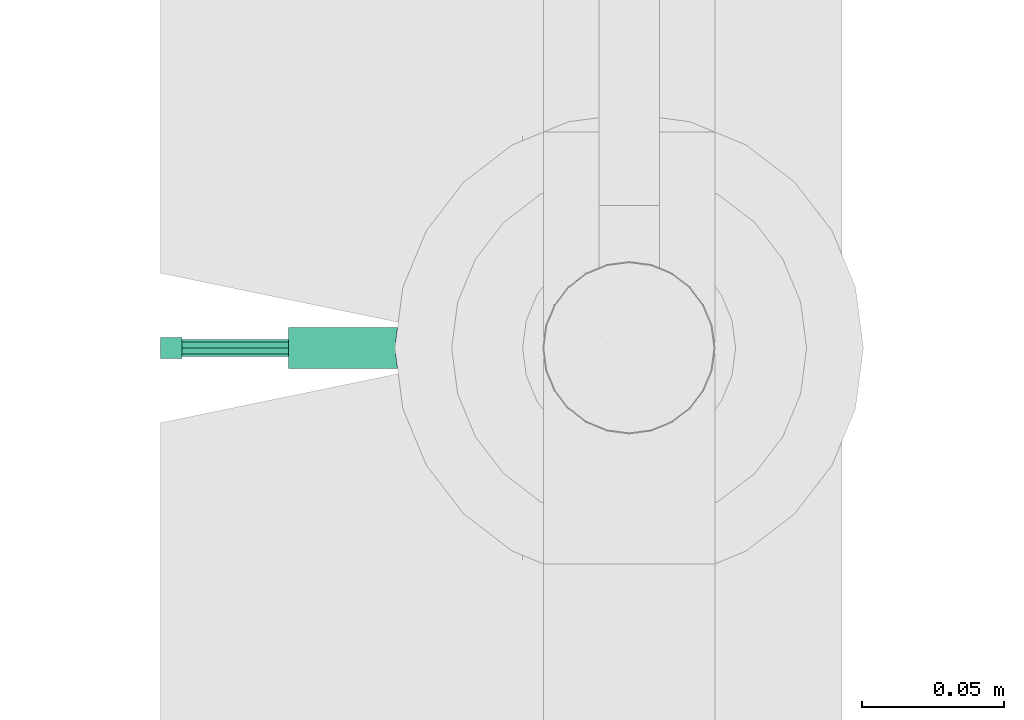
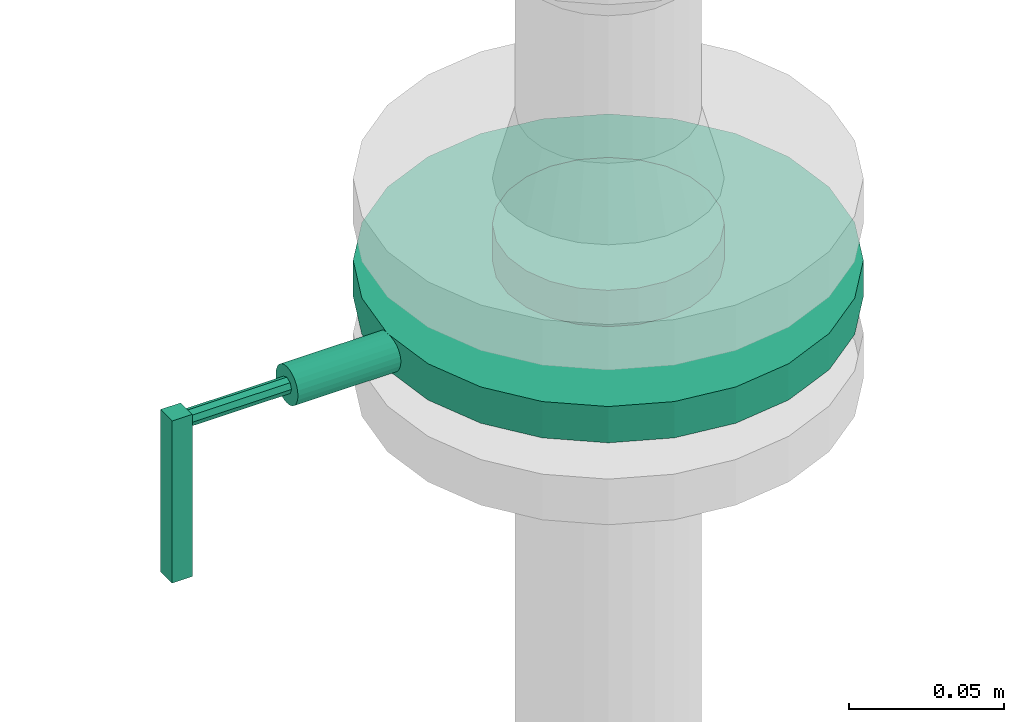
# One storey, part 286 of 374: 1 flow controller.
"""IFC2X3 building model written with IfcOpenShell, lengths in metres."""

from ifc_helpers import new_model, si_unit, direction, origin, place, context, subcontext, project, spatial, open_shell, surface_model, source, transform, mapped, element, save


model = new_model("IFC2X3")

# Units and contexts
model_context = context("Model", 3, precision=1e-05, world=origin(), true_north=direction((-0.4480736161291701, 0.8939966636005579)))
body_context = subcontext(model_context, "Body", "Model", "MODEL_VIEW")
ifc_project = project(units=[si_unit("LENGTHUNIT", "METRE"), si_unit("AREAUNIT", "SQUARE_METRE"), si_unit("VOLUMEUNIT", "CUBIC_METRE"), si_unit("PLANEANGLEUNIT", "RADIAN"), si_unit("THERMODYNAMICTEMPERATUREUNIT", "KELVIN"), si_unit("MASSUNIT", "GRAM", prefix="KILO"), si_unit("TIMEUNIT", "SECOND")], contexts=[model_context])

# Site, building, storey
site_placement = place(None, origin())
site = spatial("IfcSite", under=ifc_project, at=site_placement, Name="Site 1", CompositionType="ELEMENT")
building_placement = place(site_placement, origin())
building = spatial("IfcBuilding", under=site, at=building_placement, Name="Undefined", CompositionType="ELEMENT")
storey_placement = place(building_placement, origin())
storey = spatial("IfcBuildingStorey", under=building, at=storey_placement, Name="Rez de chauss\x8ee", CompositionType="ELEMENT", Elevation=0.0)

# Flow controller
shared_shape = source(origin(), body_context, "Body", "SurfaceModel", [
    surface_model("IfcFaceBasedSurfaceModel", [(0.0, 0.0, 0.0), (0.06404999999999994, 0.0, 0.0), (0.06404999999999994, 0.007500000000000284, 0.0), (0.0, 0.007500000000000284, 0.0), (0.06404999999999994, 0.007500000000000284, 0.007500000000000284), (0.0, 0.007500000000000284, 0.007500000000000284), (0.06404999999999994, 0.0, 0.007500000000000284), (0.0, 0.0, 0.007500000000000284), (0.038799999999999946, 0.04124999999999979, -0.15749999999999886), (0.038799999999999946, 0.03997221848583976, -0.14779428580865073), (0.053133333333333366, 0.03997221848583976, -0.14779428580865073), (0.053133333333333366, 0.04124999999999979, -0.15749999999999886), (0.038799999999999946, 0.0362259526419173, -0.1387500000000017), (0.053133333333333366, 0.0362259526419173, -0.1387500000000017), (0.038799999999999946, 0.030266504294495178, -0.13098349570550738), (0.053133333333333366, 0.030266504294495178, -0.13098349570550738), (0.038799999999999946, 0.022500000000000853, -0.1250240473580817), (0.053133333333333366, 0.022500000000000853, -0.1250240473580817), (0.038799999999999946, 0.013455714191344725, -0.12127778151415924), (0.053133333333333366, 0.013455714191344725, -0.12127778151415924), (0.038799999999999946, 0.003750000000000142, -0.11999999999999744), (0.053133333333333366, 0.003750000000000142, -0.11999999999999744), (0.038799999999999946, -0.005955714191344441, -0.12127778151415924), (0.053133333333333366, -0.005955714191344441, -0.12127778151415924), (0.038799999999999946, -0.015000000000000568, -0.1250240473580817), (0.053133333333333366, -0.015000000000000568, -0.1250240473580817), (0.038799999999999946, -0.022766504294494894, -0.13098349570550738), (0.053133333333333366, -0.022766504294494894, -0.13098349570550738), (0.038799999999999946, -0.02872595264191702, -0.1387500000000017), (0.053133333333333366, -0.02872595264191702, -0.1387500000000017), (0.038799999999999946, -0.03247221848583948, -0.14779428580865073), (0.053133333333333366, -0.03247221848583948, -0.14779428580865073), (0.038799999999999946, -0.0337499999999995, -0.15749999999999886), (0.053133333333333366, -0.0337499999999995, -0.15749999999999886), (0.038799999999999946, -0.03247221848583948, -0.167205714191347), (0.053133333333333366, -0.03247221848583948, -0.167205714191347), (0.038799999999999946, -0.02872595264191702, -0.17625000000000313), (0.053133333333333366, -0.02872595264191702, -0.17625000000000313), (0.038799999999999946, -0.022766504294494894, -0.18401650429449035), (0.053133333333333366, -0.022766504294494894, -0.18401650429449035), (0.038799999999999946, -0.015000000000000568, -0.18997595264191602), (0.053133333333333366, -0.015000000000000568, -0.18997595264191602), (0.038799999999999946, -0.005955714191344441, -0.19372221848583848), (0.053133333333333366, -0.005955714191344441, -0.19372221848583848), (0.038799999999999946, 0.003750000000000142, -0.19500000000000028), (0.053133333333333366, 0.003750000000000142, -0.19500000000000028), (0.038799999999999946, 0.013455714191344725, -0.19372221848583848), (0.053133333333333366, 0.013455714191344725, -0.19372221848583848), (0.038799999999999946, 0.022500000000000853, -0.18997595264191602), (0.053133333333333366, 0.022500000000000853, -0.18997595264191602), (0.038799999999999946, 0.030266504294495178, -0.18401650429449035), (0.053133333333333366, 0.030266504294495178, -0.18401650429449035), (0.038799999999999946, 0.0362259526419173, -0.17625000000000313), (0.053133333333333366, 0.0362259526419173, -0.17625000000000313), (0.038799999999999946, 0.03997221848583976, -0.167205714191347), (0.053133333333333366, 0.03997221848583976, -0.167205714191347), (0.038799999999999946, 0.003750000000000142, -0.15749999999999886), (0.053133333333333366, 0.003750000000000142, -0.15749999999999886), (0.053133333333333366, 0.08624999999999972, -0.15749999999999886), (0.053133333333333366, 0.0834388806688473, -0.13614742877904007), (0.06746666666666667, 0.0834388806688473, -0.13614742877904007), (0.06746666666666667, 0.08624999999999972, -0.15749999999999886), (0.053133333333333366, 0.07519709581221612, -0.11625000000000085), (0.06746666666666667, 0.07519709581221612, -0.11625000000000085), (0.053133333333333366, 0.06208630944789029, -0.0991636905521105), (0.06746666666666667, 0.06208630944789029, -0.0991636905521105), (0.053133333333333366, 0.04499999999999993, -0.08605290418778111), (0.06746666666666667, 0.04499999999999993, -0.08605290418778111), (0.053133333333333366, 0.02510257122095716, -0.0778111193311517), (0.06746666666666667, 0.02510257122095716, -0.0778111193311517), (0.053133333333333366, 0.003750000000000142, -0.07500000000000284), (0.06746666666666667, 0.003750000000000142, -0.07500000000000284), (0.053133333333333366, -0.017602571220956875, -0.0778111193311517), (0.06746666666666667, -0.017602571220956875, -0.0778111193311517), (0.053133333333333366, -0.037499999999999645, -0.08605290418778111), (0.06746666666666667, -0.037499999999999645, -0.08605290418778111), (0.053133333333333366, -0.05458630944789, -0.0991636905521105), (0.06746666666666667, -0.05458630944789, -0.0991636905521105), (0.053133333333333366, -0.06769709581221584, -0.11625000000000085), (0.06746666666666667, -0.06769709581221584, -0.11625000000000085), (0.053133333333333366, -0.07593888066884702, -0.13614742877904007), (0.06746666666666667, -0.07593888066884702, -0.13614742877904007), (0.053133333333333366, -0.07874999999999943, -0.15749999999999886), (0.06746666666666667, -0.07874999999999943, -0.15749999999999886), (0.053133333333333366, -0.07593888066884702, -0.17885257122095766), (0.06746666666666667, -0.07593888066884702, -0.17885257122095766), (0.053133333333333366, -0.06769709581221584, -0.19874999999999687), (0.06746666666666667, -0.06769709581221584, -0.19874999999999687), (0.053133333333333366, -0.05458630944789, -0.21583630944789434), (0.06746666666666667, -0.05458630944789, -0.21583630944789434), (0.053133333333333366, -0.037499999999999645, -0.22894709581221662), (0.06746666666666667, -0.037499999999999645, -0.22894709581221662), (0.053133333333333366, -0.017602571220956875, -0.23718888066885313), (0.06746666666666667, -0.017602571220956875, -0.23718888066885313), (0.053133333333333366, 0.003750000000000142, -0.240000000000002), (0.06746666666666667, 0.003750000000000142, -0.240000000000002), (0.053133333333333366, 0.02510257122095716, -0.23718888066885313), (0.06746666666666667, 0.02510257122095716, -0.23718888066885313), (0.053133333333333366, 0.04499999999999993, -0.22894709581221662), (0.06746666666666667, 0.04499999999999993, -0.22894709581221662), (0.053133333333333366, 0.06208630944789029, -0.21583630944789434), (0.06746666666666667, 0.06208630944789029, -0.21583630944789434), (0.053133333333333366, 0.07519709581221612, -0.19874999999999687), (0.06746666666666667, 0.07519709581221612, -0.19874999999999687), (0.053133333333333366, 0.0834388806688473, -0.17885257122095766), (0.06746666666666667, 0.0834388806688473, -0.17885257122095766), (0.06746666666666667, 0.003750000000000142, -0.15749999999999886), (0.06746666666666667, 0.04124999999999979, -0.15749999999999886), (0.06746666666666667, 0.03997221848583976, -0.14779428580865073), (0.08179999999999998, 0.03997221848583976, -0.14779428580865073), (0.08179999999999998, 0.04124999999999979, -0.15749999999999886), (0.06746666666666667, 0.0362259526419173, -0.1387500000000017), (0.08179999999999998, 0.0362259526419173, -0.1387500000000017), (0.06746666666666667, 0.030266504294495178, -0.13098349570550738), (0.08179999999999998, 0.030266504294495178, -0.13098349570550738), (0.06746666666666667, 0.022500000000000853, -0.1250240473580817), (0.08179999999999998, 0.022500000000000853, -0.1250240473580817), (0.06746666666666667, 0.013455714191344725, -0.12127778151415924), (0.08179999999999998, 0.013455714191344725, -0.12127778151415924), (0.06746666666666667, 0.003750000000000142, -0.11999999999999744), (0.08179999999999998, 0.003750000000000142, -0.11999999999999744), (0.06746666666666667, -0.005955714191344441, -0.12127778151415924), (0.08179999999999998, -0.005955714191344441, -0.12127778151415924), (0.06746666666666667, -0.015000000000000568, -0.1250240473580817), (0.08179999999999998, -0.015000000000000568, -0.1250240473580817), (0.06746666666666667, -0.022766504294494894, -0.13098349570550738), (0.08179999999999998, -0.022766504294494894, -0.13098349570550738), (0.06746666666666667, -0.02872595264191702, -0.1387500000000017), (0.08179999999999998, -0.02872595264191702, -0.1387500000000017), (0.06746666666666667, -0.03247221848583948, -0.14779428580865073), (0.08179999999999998, -0.03247221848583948, -0.14779428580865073), (0.06746666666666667, -0.0337499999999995, -0.15749999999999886), (0.08179999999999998, -0.0337499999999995, -0.15749999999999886), (0.06746666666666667, -0.03247221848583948, -0.167205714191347), (0.08179999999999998, -0.03247221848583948, -0.167205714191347), (0.06746666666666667, -0.02872595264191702, -0.17625000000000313), (0.08179999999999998, -0.02872595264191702, -0.17625000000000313), (0.06746666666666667, -0.022766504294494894, -0.18401650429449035), (0.08179999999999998, -0.022766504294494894, -0.18401650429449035), (0.06746666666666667, -0.015000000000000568, -0.18997595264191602), (0.08179999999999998, -0.015000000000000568, -0.18997595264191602), (0.06746666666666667, -0.005955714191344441, -0.19372221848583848), (0.08179999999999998, -0.005955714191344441, -0.19372221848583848), (0.06746666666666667, 0.003750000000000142, -0.19500000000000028), (0.08179999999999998, 0.003750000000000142, -0.19500000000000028), (0.06746666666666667, 0.013455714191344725, -0.19372221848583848), (0.08179999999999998, 0.013455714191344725, -0.19372221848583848), (0.06746666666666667, 0.022500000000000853, -0.18997595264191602), (0.08179999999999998, 0.022500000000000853, -0.18997595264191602), (0.06746666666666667, 0.030266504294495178, -0.18401650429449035), (0.08179999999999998, 0.030266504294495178, -0.18401650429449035), (0.06746666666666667, 0.0362259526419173, -0.17625000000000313), (0.08179999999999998, 0.0362259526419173, -0.17625000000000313), (0.06746666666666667, 0.03997221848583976, -0.167205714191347), (0.08179999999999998, 0.03997221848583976, -0.167205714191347), (0.08179999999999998, 0.003750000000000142, -0.15749999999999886), (0.06030000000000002, 0.010916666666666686, -0.15749999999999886), (0.058445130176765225, 0.010672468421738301, -0.15749999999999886), (0.058445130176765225, 0.010672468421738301, -0.03750000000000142), (0.06030000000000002, 0.010916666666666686, -0.03750000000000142), (0.05671666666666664, 0.009956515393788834, -0.15749999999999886), (0.05671666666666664, 0.009956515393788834, -0.03750000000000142), (0.055232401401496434, 0.00881759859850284, -0.15749999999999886), (0.055232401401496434, 0.00881759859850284, -0.03750000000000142), (0.05409348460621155, 0.007333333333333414, -0.15749999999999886), (0.05409348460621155, 0.007333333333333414, -0.03750000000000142), (0.05337753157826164, 0.005604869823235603, -0.15749999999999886), (0.05337753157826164, 0.005604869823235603, -0.03750000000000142), (0.053133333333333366, 0.003750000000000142, -0.03750000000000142), (0.05337753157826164, 0.001895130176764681, -0.15749999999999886), (0.05337753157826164, 0.001895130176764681, -0.03750000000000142), (0.05409348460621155, 0.00016666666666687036, -0.15749999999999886), (0.05409348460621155, 0.00016666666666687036, -0.03750000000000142), (0.055232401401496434, -0.0013175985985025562, -0.15749999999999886), (0.055232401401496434, -0.0013175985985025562, -0.03750000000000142), (0.05671666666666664, -0.0024565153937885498, -0.15749999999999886), (0.05671666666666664, -0.0024565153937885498, -0.03750000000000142), (0.058445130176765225, -0.0031724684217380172, -0.15749999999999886), (0.058445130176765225, -0.0031724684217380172, -0.03750000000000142), (0.06030000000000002, -0.0034166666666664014, -0.15749999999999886), (0.06030000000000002, -0.0034166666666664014, -0.03750000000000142), (0.062154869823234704, -0.0031724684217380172, -0.15749999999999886), (0.062154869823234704, -0.0031724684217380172, -0.03750000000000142), (0.0638833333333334, -0.0024565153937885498, -0.15749999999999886), (0.0638833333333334, -0.0024565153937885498, -0.03750000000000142), (0.0653675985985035, -0.0013175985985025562, -0.15749999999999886), (0.0653675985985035, -0.0013175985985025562, -0.03750000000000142), (0.06650651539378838, 0.00016666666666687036, -0.15749999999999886), (0.06650651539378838, 0.00016666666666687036, -0.03750000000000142), (0.06722246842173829, 0.001895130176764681, -0.15749999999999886), (0.06722246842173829, 0.001895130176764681, -0.03750000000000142), (0.06746666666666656, 0.003750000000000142, -0.03750000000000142), (0.06722246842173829, 0.005604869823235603, -0.15749999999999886), (0.06722246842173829, 0.005604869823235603, -0.03750000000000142), (0.06650651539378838, 0.007333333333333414, -0.15749999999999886), (0.06650651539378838, 0.007333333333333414, -0.03750000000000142), (0.0653675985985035, 0.00881759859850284, -0.15749999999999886), (0.0653675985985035, 0.00881759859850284, -0.03750000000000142), (0.0638833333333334, 0.009956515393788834, -0.15749999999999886), (0.0638833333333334, 0.009956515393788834, -0.03750000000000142), (0.062154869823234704, 0.010672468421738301, -0.15749999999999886), (0.062154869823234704, 0.010672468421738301, -0.03750000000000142), (0.06030000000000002, 0.003750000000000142, -0.15749999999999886), (0.06030000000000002, 0.003750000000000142, -0.03750000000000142), (0.06030000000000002, 0.006764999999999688, -0.03750000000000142), (0.0581680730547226, 0.005881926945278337, -0.03750000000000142), (0.05816807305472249, 0.005881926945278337, 0.0), (0.06030000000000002, 0.006764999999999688, 0.0), (0.05728500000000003, 0.003750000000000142, -0.03750000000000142), (0.05728499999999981, 0.003750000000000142, 0.0), (0.0581680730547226, 0.0016180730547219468, -0.03750000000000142), (0.05816807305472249, 0.0016180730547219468, 0.0), (0.06030000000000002, 0.0007350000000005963, -0.03750000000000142), (0.06030000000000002, 0.0007350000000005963, 0.0), (0.06243192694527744, 0.0016180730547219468, -0.03750000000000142), (0.06243192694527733, 0.0016180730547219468, 0.0), (0.06331500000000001, 0.003750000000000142, -0.03750000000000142), (0.06331500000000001, 0.003750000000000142, 0.0), (0.06243192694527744, 0.005881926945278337, -0.03750000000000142), (0.06243192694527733, 0.005881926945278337, 0.0), (0.06030000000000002, 0.003750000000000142, 0.0)], [open_shell([[[0, 1, 2, 3]], [[3, 2, 4, 5]], [[5, 4, 6, 7]], [[7, 6, 1, 0]], [[0, 3, 5, 7]], [[6, 4, 2, 1]], [[8, 9, 10, 11]], [[9, 12, 13, 10]], [[12, 14, 15, 13]], [[14, 16, 17, 15]], [[16, 18, 19, 17]], [[18, 20, 21, 19]], [[20, 22, 23, 21]], [[22, 24, 25, 23]], [[24, 26, 27, 25]], [[26, 28, 29, 27]], [[28, 30, 31, 29]], [[30, 32, 33, 31]], [[32, 34, 35, 33]], [[34, 36, 37, 35]], [[36, 38, 39, 37]], [[38, 40, 41, 39]], [[40, 42, 43, 41]], [[42, 44, 45, 43]], [[44, 46, 47, 45]], [[46, 48, 49, 47]], [[48, 50, 51, 49]], [[50, 52, 53, 51]], [[52, 54, 55, 53]], [[54, 8, 11, 55]], [[56, 9, 8]], [[56, 12, 9]], [[56, 14, 12]], [[56, 16, 14]], [[56, 18, 16]], [[56, 20, 18]], [[56, 22, 20]], [[56, 24, 22]], [[56, 26, 24]], [[56, 28, 26]], [[56, 30, 28]], [[56, 32, 30]], [[56, 34, 32]], [[56, 36, 34]], [[56, 38, 36]], [[56, 40, 38]], [[56, 42, 40]], [[56, 44, 42]], [[56, 46, 44]], [[56, 48, 46]], [[56, 50, 48]], [[56, 52, 50]], [[56, 54, 52]], [[56, 8, 54]], [[57, 55, 11]], [[57, 53, 55]], [[57, 51, 53]], [[57, 49, 51]], [[57, 47, 49]], [[57, 45, 47]], [[57, 43, 45]], [[57, 41, 43]], [[57, 39, 41]], [[57, 37, 39]], [[57, 35, 37]], [[57, 33, 35]], [[57, 31, 33]], [[57, 29, 31]], [[57, 27, 29]], [[57, 25, 27]], [[57, 23, 25]], [[57, 21, 23]], [[57, 19, 21]], [[57, 17, 19]], [[57, 15, 17]], [[57, 13, 15]], [[57, 10, 13]], [[57, 11, 10]], [[58, 59, 60, 61]], [[59, 62, 63, 60]], [[62, 64, 65, 63]], [[64, 66, 67, 65]], [[66, 68, 69, 67]], [[68, 70, 71, 69]], [[70, 72, 73, 71]], [[72, 74, 75, 73]], [[74, 76, 77, 75]], [[76, 78, 79, 77]], [[78, 80, 81, 79]], [[80, 82, 83, 81]], [[82, 84, 85, 83]], [[84, 86, 87, 85]], [[86, 88, 89, 87]], [[88, 90, 91, 89]], [[90, 92, 93, 91]], [[92, 94, 95, 93]], [[94, 96, 97, 95]], [[96, 98, 99, 97]], [[98, 100, 101, 99]], [[100, 102, 103, 101]], [[102, 104, 105, 103]], [[104, 58, 61, 105]], [[57, 59, 58]], [[57, 62, 59]], [[57, 64, 62]], [[57, 66, 64]], [[57, 68, 66]], [[57, 70, 68]], [[57, 72, 70]], [[57, 74, 72]], [[57, 76, 74]], [[57, 78, 76]], [[57, 80, 78]], [[57, 82, 80]], [[57, 84, 82]], [[57, 86, 84]], [[57, 88, 86]], [[57, 90, 88]], [[57, 92, 90]], [[57, 94, 92]], [[57, 96, 94]], [[57, 98, 96]], [[57, 100, 98]], [[57, 102, 100]], [[57, 104, 102]], [[57, 58, 104]], [[106, 105, 61]], [[106, 103, 105]], [[106, 101, 103]], [[106, 99, 101]], [[106, 97, 99]], [[106, 95, 97]], [[106, 93, 95]], [[106, 91, 93]], [[106, 89, 91]], [[106, 87, 89]], [[106, 85, 87]], [[106, 83, 85]], [[106, 81, 83]], [[106, 79, 81]], [[106, 77, 79]], [[106, 75, 77]], [[106, 73, 75]], [[106, 71, 73]], [[106, 69, 71]], [[106, 67, 69]], [[106, 65, 67]], [[106, 63, 65]], [[106, 60, 63]], [[106, 61, 60]], [[107, 108, 109, 110]], [[108, 111, 112, 109]], [[111, 113, 114, 112]], [[113, 115, 116, 114]], [[115, 117, 118, 116]], [[117, 119, 120, 118]], [[119, 121, 122, 120]], [[121, 123, 124, 122]], [[123, 125, 126, 124]], [[125, 127, 128, 126]], [[127, 129, 130, 128]], [[129, 131, 132, 130]], [[131, 133, 134, 132]], [[133, 135, 136, 134]], [[135, 137, 138, 136]], [[137, 139, 140, 138]], [[139, 141, 142, 140]], [[141, 143, 144, 142]], [[143, 145, 146, 144]], [[145, 147, 148, 146]], [[147, 149, 150, 148]], [[149, 151, 152, 150]], [[151, 153, 154, 152]], [[153, 107, 110, 154]], [[106, 108, 107]], [[106, 111, 108]], [[106, 113, 111]], [[106, 115, 113]], [[106, 117, 115]], [[106, 119, 117]], [[106, 121, 119]], [[106, 123, 121]], [[106, 125, 123]], [[106, 127, 125]], [[106, 129, 127]], [[106, 131, 129]], [[106, 133, 131]], [[106, 135, 133]], [[106, 137, 135]], [[106, 139, 137]], [[106, 141, 139]], [[106, 143, 141]], [[106, 145, 143]], [[106, 147, 145]], [[106, 149, 147]], [[106, 151, 149]], [[106, 153, 151]], [[106, 107, 153]], [[155, 154, 110]], [[155, 152, 154]], [[155, 150, 152]], [[155, 148, 150]], [[155, 146, 148]], [[155, 144, 146]], [[155, 142, 144]], [[155, 140, 142]], [[155, 138, 140]], [[155, 136, 138]], [[155, 134, 136]], [[155, 132, 134]], [[155, 130, 132]], [[155, 128, 130]], [[155, 126, 128]], [[155, 124, 126]], [[155, 122, 124]], [[155, 120, 122]], [[155, 118, 120]], [[155, 116, 118]], [[155, 114, 116]], [[155, 112, 114]], [[155, 109, 112]], [[155, 110, 109]], [[156, 157, 158, 159]], [[157, 160, 161, 158]], [[160, 162, 163, 161]], [[162, 164, 165, 163]], [[164, 166, 167, 165]], [[166, 57, 168, 167]], [[57, 169, 170, 168]], [[169, 171, 172, 170]], [[171, 173, 174, 172]], [[173, 175, 176, 174]], [[175, 177, 178, 176]], [[177, 179, 180, 178]], [[179, 181, 182, 180]], [[181, 183, 184, 182]], [[183, 185, 186, 184]], [[185, 187, 188, 186]], [[187, 189, 190, 188]], [[189, 106, 191, 190]], [[106, 192, 193, 191]], [[192, 194, 195, 193]], [[194, 196, 197, 195]], [[196, 198, 199, 197]], [[198, 200, 201, 199]], [[200, 156, 159, 201]], [[202, 157, 156]], [[202, 160, 157]], [[202, 162, 160]], [[202, 164, 162]], [[202, 166, 164]], [[202, 57, 166]], [[202, 169, 57]], [[202, 171, 169]], [[202, 173, 171]], [[202, 175, 173]], [[202, 177, 175]], [[202, 179, 177]], [[202, 181, 179]], [[202, 183, 181]], [[202, 185, 183]], [[202, 187, 185]], [[202, 189, 187]], [[202, 106, 189]], [[202, 192, 106]], [[202, 194, 192]], [[202, 196, 194]], [[202, 198, 196]], [[202, 200, 198]], [[202, 156, 200]], [[203, 201, 159]], [[203, 199, 201]], [[203, 197, 199]], [[203, 195, 197]], [[203, 193, 195]], [[203, 191, 193]], [[203, 190, 191]], [[203, 188, 190]], [[203, 186, 188]], [[203, 184, 186]], [[203, 182, 184]], [[203, 180, 182]], [[203, 178, 180]], [[203, 176, 178]], [[203, 174, 176]], [[203, 172, 174]], [[203, 170, 172]], [[203, 168, 170]], [[203, 167, 168]], [[203, 165, 167]], [[203, 163, 165]], [[203, 161, 163]], [[203, 158, 161]], [[203, 159, 158]], [[204, 205, 206, 207]], [[205, 208, 209, 206]], [[208, 210, 211, 209]], [[210, 212, 213, 211]], [[212, 214, 215, 213]], [[214, 216, 217, 215]], [[216, 218, 219, 217]], [[218, 204, 207, 219]], [[220, 219, 207]], [[220, 217, 219]], [[220, 215, 217]], [[220, 213, 215]], [[220, 211, 213]], [[220, 209, 211]], [[220, 206, 209]], [[220, 207, 206]]])]),
])
flow_controller_placement = place(storey_placement, origin())
element("IfcFlowController", 1, at=flow_controller_placement, inside=storey, Name="Vanne papillon", ObjectType="Vanne papillon", context=body_context, shape_type="MappedRepresentation", body=[
    mapped(shared_shape, transform((54.841829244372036, 11.993926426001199, 0.8611161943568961), x_axis=(0.0, 0.0, 1.0), y_axis=(0.0, 1.0, 0.0), z_axis=(-1.0, 0.0, 0.0))),
])

save(model, "model.ifc")
